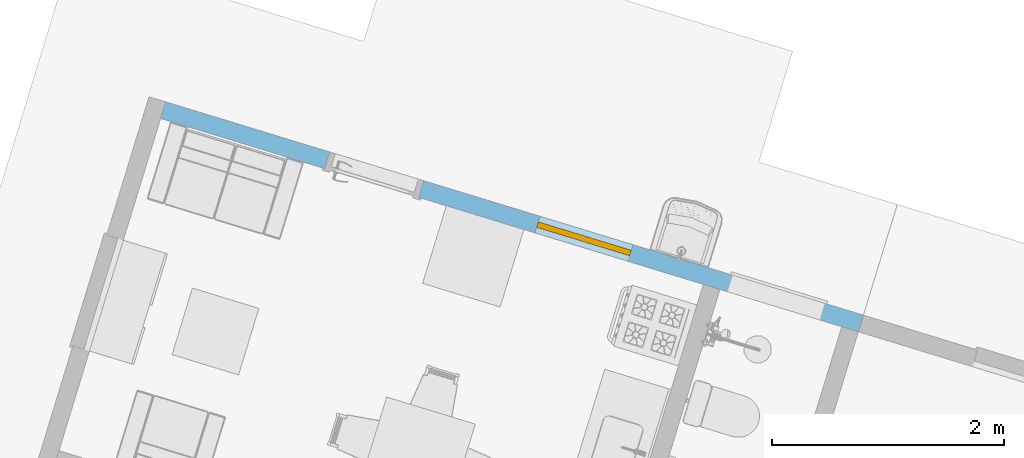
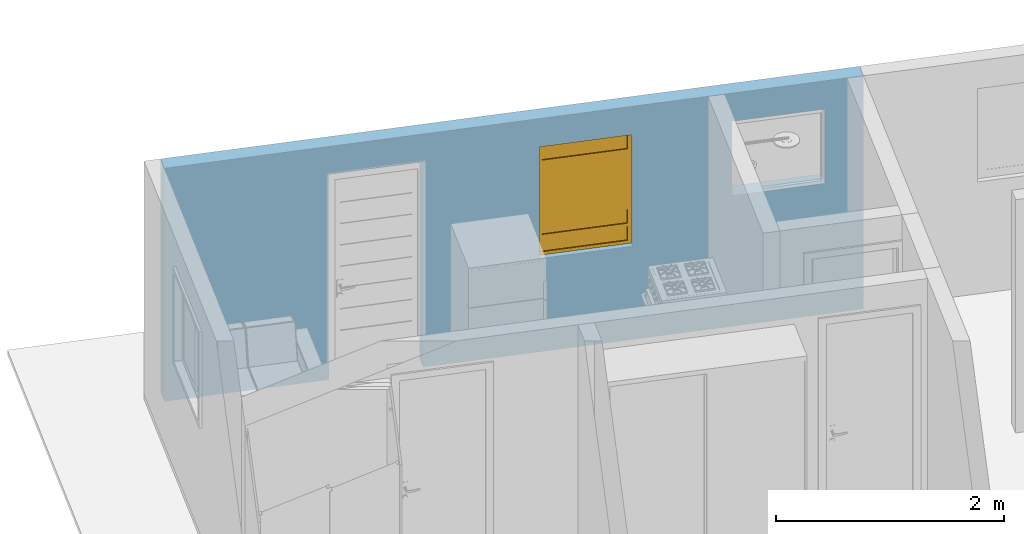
# One storey, part 6 of 13: 1 window, 3 openings, plus 1 element that does not belong to this part.
"""IFC2X3 building model written with IfcOpenShell, lengths in millimetres."""

import ifcopenshell
import ifcopenshell.guid

model = None  # the IFC model being written
_history = None  # IfcOwnerHistory: only IFC2X3 demands one
_inside = {}  # id of a spatial element -> (the spatial element, [elements in it])
_under = {}  # id of a project, library or spatial element -> (it, [spatial elements below it])
_declared = {}  # id of a project -> (the project, [libraries it declares])
_typed = {}  # id of a type object -> (the type object, [elements of that type])
_made_of = {}  # id of a material, layer set ... -> (it, [elements and type objects made of it])


def new_model(schema):
    """Start an empty IFC model of exactly this schema.

    Asked for "IFC4X3", IfcOpenShell would pick the latest addendum, in which some entities
    have other attributes; the version numbers below select the first issue.
    IFC2X3 requires an IfcOwnerHistory on every rooted entity: one is made here for all.
    """
    global model, _history
    if schema == "IFC4X3":
        model = ifcopenshell.file(schema_version=(4, 3, 0, 0))
    else:
        model = ifcopenshell.file(schema=schema)
    _inside.clear()
    _under.clear()
    _declared.clear()
    _typed.clear()
    _made_of.clear()
    _history = None
    if model.schema == "IFC2X3":
        org = make("IfcOrganization", Name="unknown")
        user = make(
            "IfcPersonAndOrganization",
            ThePerson=make("IfcPerson", FamilyName="unknown"),
            TheOrganization=org,
        )
        app = make(
            "IfcApplication",
            ApplicationDeveloper=org,
            Version="unknown",
            ApplicationFullName="unknown",
            ApplicationIdentifier="unknown",
        )
        _history = make(
            "IfcOwnerHistory",
            OwningUser=user,
            OwningApplication=app,
            ChangeAction="ADDED",
            CreationDate=0,
        )
    return model


def make(cls, **values):
    """One entity of the class cls with the attributes given. An attribute that is None is left unset."""
    return model.create_entity(
        cls, **{name: value for name, value in values.items() if value is not None}
    )


def entity(cls, *values):
    """Any entity or typed value of the class cls, its attributes in the order of the schema. None: left unset."""
    e = model.create_entity(cls)
    for i, value in enumerate(values):
        if value is not None:
            e[i] = value
    return e


def rooted(cls, **values):
    """An entity with a GlobalId (a new one), such as an element, a storey or a relation."""
    return make(cls, GlobalId=ifcopenshell.guid.new(), OwnerHistory=_history, **values)


def si_unit(unit_type, name, prefix=None):
    """IfcSIUnit, for example si_unit("LENGTHUNIT", "METRE", prefix="MILLI")."""
    return make("IfcSIUnit", UnitType=unit_type, Prefix=prefix, Name=name)


def converted_unit(unit_type, name, factor, base, dimensions=None, offset=None):
    """IfcConversionBasedUnit, such as the inch: factor (a typed value) times the base unit."""
    return make(
        "IfcConversionBasedUnit"
        if offset is None
        else "IfcConversionBasedUnitWithOffset",
        ConversionOffset=offset,
        Dimensions=None
        if dimensions is None
        else entity("IfcDimensionalExponents", *dimensions),
        UnitType=unit_type,
        Name=name,
        ConversionFactor=make(
            "IfcMeasureWithUnit", ValueComponent=factor, UnitComponent=base
        ),
    )


def derived_unit(unit_type, elements):
    """IfcDerivedUnit: a product of units, each with its exponent."""
    return make(
        "IfcDerivedUnit",
        Elements=[
            make("IfcDerivedUnitElement", Unit=unit, Exponent=power)
            for unit, power in elements
        ],
        UnitType=unit_type,
    )


def money_unit(currency):
    """IfcMonetaryUnit."""
    return make("IfcMonetaryUnit", Currency=currency)


def assignment(units):
    """IfcUnitAssignment: the units of a project."""
    return None if units is None else make("IfcUnitAssignment", Units=units)


def point(xyz):
    """IfcCartesianPoint."""
    return None if xyz is None else make("IfcCartesianPoint", Coordinates=xyz)


def direction(xyz):
    """IfcDirection."""
    return None if xyz is None else make("IfcDirection", DirectionRatios=xyz)


def frame(location, z_axis=None, x_axis=None):
    """IfcAxis2Placement3D, a coordinate frame: its origin and axes. An axis left out is left unset."""
    return make(
        "IfcAxis2Placement3D",
        Location=point(location),
        Axis=direction(z_axis),
        RefDirection=direction(x_axis),
    )


def origin_with_axes():
    """The frame at (0, 0, 0) with the z axis (0, 0, 1) and the x axis (1, 0, 0) written out."""
    return frame((0.0, 0.0, 0.0), z_axis=(0.0, 0.0, 1.0), x_axis=(1.0, 0.0, 0.0))


def place(relative_to, where):
    """IfcLocalPlacement: puts the frame where relative to a parent placement (None: the world)."""
    return make(
        "IfcLocalPlacement", PlacementRelTo=relative_to, RelativePlacement=where
    )


def context(
    kind, dimensions, precision=None, world=None, true_north=None, identifier=None
):
    """IfcGeometricRepresentationContext, for example the 3D "Model" context."""
    return make(
        "IfcGeometricRepresentationContext",
        ContextIdentifier=identifier,
        ContextType=kind,
        CoordinateSpaceDimension=dimensions,
        Precision=precision,
        WorldCoordinateSystem=world,
        TrueNorth=true_north,
    )


def subcontext(parent, identifier, kind, view, scale=None):
    """IfcGeometricRepresentationSubContext, for example "Body" below "Model"."""
    return make(
        "IfcGeometricRepresentationSubContext",
        ContextIdentifier=identifier,
        ContextType=kind,
        ParentContext=parent,
        TargetScale=scale,
        TargetView=view,
    )


def project(units=None, contexts=None):
    """IfcProject with its units and contexts."""
    return rooted(
        "IfcProject",
        Name="project",
        RepresentationContexts=contexts,
        UnitsInContext=assignment(units),
    )


def spatial(cls, under=None, at=None, **own):
    """A site, building, storey or space (cls), placed at a placement, below another one or the project."""
    s = rooted(cls, ObjectPlacement=at, **own)
    if under is not None:
        _under.setdefault(under.id(), (under, []))[1].append(s)
    return s


def faces_of(points, faces, orient=None, outer=None):
    """IfcFace entities. A face is a list of loops; a loop is a list of indices into points, from 0.

    orient and outer hold one flag for each loop. By default every Orientation is true, the
    first loop of a face is its IfcFaceOuterBound and the others are IfcFaceBound.
    """
    made = []
    for i, loops in enumerate(faces):
        bounds = []
        for j, loop in enumerate(loops):
            is_outer = j == 0 if outer is None else outer[i][j]
            bounds.append(
                make(
                    "IfcFaceOuterBound" if is_outer else "IfcFaceBound",
                    Bound=make("IfcPolyLoop", Polygon=[points[k] for k in loop]),
                    Orientation=True if orient is None else orient[i][j],
                )
            )
        made.append(make("IfcFace", Bounds=bounds))
    return made


def open_shell(faces, orient=None, outer=None):
    """The faces of one IfcOpenShell. surface_model builds it on its shared points."""
    return ("IfcOpenShell", faces, orient, outer)


def faceted_brep(points, faces, orient=None, outer=None, voids=None):
    """IfcFacetedBrep: a solid bounded by flat faces; with voids (closed shells), ...WithVoids."""
    shared = [point(p) for p in points]
    hull = make("IfcClosedShell", CfsFaces=faces_of(shared, faces, orient, outer))
    if voids is None:
        return make("IfcFacetedBrep", Outer=hull)
    return make(
        "IfcFacetedBrepWithVoids",
        Outer=hull,
        Voids=[
            make(cls, CfsFaces=faces_of(shared, fs, o, b)) for cls, fs, o, b in voids
        ],
    )


def surface_model(cls, points, shells):
    """IfcFaceBasedSurfaceModel or IfcShellBasedSurfaceModel (cls): surfaces that need not close."""
    shared = [point(p) for p in points]
    made = [make(c, CfsFaces=faces_of(shared, fs, o, b)) for c, fs, o, b in shells]
    if cls == "IfcFaceBasedSurfaceModel":
        return make(cls, FbsmFaces=made)
    return make(cls, SbsmBoundary=made)


def shape(context_of_items, identifier, shape_type, items):
    """IfcShapeRepresentation: the items that make up one representation, for example the "Body"."""
    return make(
        "IfcShapeRepresentation",
        ContextOfItems=context_of_items,
        RepresentationIdentifier=identifier,
        RepresentationType=shape_type,
        Items=items,
    )


def material(Name=None, Category=None):
    """IfcMaterial."""
    return make("IfcMaterial", Name=Name, Category=Category)


def made_of(thing, what):
    """Note that an element or type object is made of a material, layer set ...; save() writes the relation."""
    if what is not None:
        _made_of.setdefault(what.id(), (what, []))[1].append(thing)
    return thing


def type_object(cls, material=None, **own):
    """A type object (cls), such as IfcWallType, which elements share."""
    return made_of(rooted(cls, **own), material)


def element(
    cls,
    number,
    at=None,
    inside=None,
    cuts=None,
    type_object=None,
    material=None,
    context=None,
    identifier="Body",
    shape_type=None,
    held_by="IfcProductDefinitionShape",
    body=None,
    shapes=None,
    **own,
):
    """One element of the class cls, such as IfcWall. Its Tag is "e" and its number.

    at: its placement. inside: the storey or other place that contains it. cuts: it is an
    opening in that element (IfcRelVoidsElement). A single representation is given by context,
    identifier, shape_type and body (its items); several are given by shapes. held_by: the class
    of the entity that holds the representations. save() writes the other relations.
    """
    e = rooted(cls, Tag="e%d" % number, ObjectPlacement=at, **own)
    if body is not None:
        shapes = [shape(context, identifier, shape_type, body)]
    if shapes is not None:
        e.Representation = make(held_by, Representations=shapes)
    if inside is not None:
        _inside.setdefault(inside.id(), (inside, []))[1].append(e)
    if cuts is not None:
        rooted(
            "IfcRelVoidsElement", RelatingBuildingElement=cuts, RelatedOpeningElement=e
        )
    if type_object is not None:
        _typed.setdefault(type_object.id(), (type_object, []))[1].append(e)
    return made_of(e, material)


def fill(opening, filler):
    """IfcRelFillsElement: the door or window that sits in an opening."""
    return rooted(
        "IfcRelFillsElement",
        RelatingOpeningElement=opening,
        RelatedBuildingElement=filler,
    )


def aggregate(whole, parts):
    """IfcRelAggregates: a whole, such as a stair, and the parts it consists of."""
    return rooted("IfcRelAggregates", RelatingObject=whole, RelatedObjects=parts)


def save(model, path):
    """Write the relations noted so far, then the file.

    IfcRelAggregates (storeys below a building ...), IfcRelContainedInSpatialStructure (elements
    in a storey), IfcRelDefinesByType, IfcRelAssociatesMaterial and IfcRelDeclares: one each for
    every whole, place, type object, material and project.
    """
    for whole, parts in _under.values():
        aggregate(whole, parts)
    for where, things in _inside.values():
        rooted(
            "IfcRelContainedInSpatialStructure",
            RelatedElements=things,
            RelatingStructure=where,
        )
    for kind, things in _typed.values():
        rooted("IfcRelDefinesByType", RelatedObjects=things, RelatingType=kind)
    for what, things in _made_of.values():
        rooted("IfcRelAssociatesMaterial", RelatedObjects=things, RelatingMaterial=what)
    for by, libraries in _declared.values():
        rooted("IfcRelDeclares", RelatingContext=by, RelatedDefinitions=libraries)
    model.write(path)


model = new_model("IFC2X3")

# Units and contexts
model_context = context("Model", 3, precision=0.01, world=origin_with_axes(), true_north=direction((0.0, 1.0)))
body_context = subcontext(model_context, "Body", "Model", "MODEL_VIEW")
ifc_project = project(units=[si_unit("LENGTHUNIT", "METRE", prefix="MILLI"), si_unit("AREAUNIT", "SQUARE_METRE"), si_unit("VOLUMEUNIT", "CUBIC_METRE"), converted_unit("PLANEANGLEUNIT", "DEGREE", entity("IfcPlaneAngleMeasure", 0.0174532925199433), si_unit("PLANEANGLEUNIT", "RADIAN"), dimensions=[0, 0, 0, 0, 0, 0, 0]), money_unit("USD"), converted_unit("TIMEUNIT", "Year", entity("IfcTimeMeasure", 31557600.0), si_unit("TIMEUNIT", "SECOND"), dimensions=[0, 0, 1, 0, 0, 0, 0]), si_unit("MASSUNIT", "GRAM", prefix="KILO"), si_unit("THERMODYNAMICTEMPERATUREUNIT", "DEGREE_CELSIUS"), si_unit("LUMINOUSINTENSITYUNIT", "LUMEN"), si_unit("ENERGYUNIT", "JOULE", prefix="MEGA"), derived_unit("THERMALCONDUCTANCEUNIT", [(si_unit("POWERUNIT", "WATT"), 1), (si_unit("LENGTHUNIT", "METRE"), -1), (si_unit("THERMODYNAMICTEMPERATUREUNIT", "KELVIN"), -1)]), derived_unit("SPECIFICHEATCAPACITYUNIT", [(si_unit("ENERGYUNIT", "JOULE"), 1), (si_unit("MASSUNIT", "GRAM", prefix="KILO"), -1), (si_unit("THERMODYNAMICTEMPERATUREUNIT", "KELVIN"), -1)]), derived_unit("MASSDENSITYUNIT", [(si_unit("MASSUNIT", "GRAM", prefix="KILO"), 1), (si_unit("VOLUMEUNIT", "CUBIC_METRE"), -1)])], contexts=[model_context])

# Site, building, storey
site_placement = place(None, frame((0.0, 0.0, 0.0), z_axis=(0.0, 0.0, 1.0), x_axis=(0.9563047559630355, -0.2923717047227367, 0.0)))
site = spatial("IfcSite", under=ifc_project, at=site_placement, Name="Site", CompositionType="ELEMENT")
building_placement = place(site_placement, origin_with_axes())
building = spatial("IfcBuilding", under=site, at=building_placement, Name="Casa Térrea Isolada", CompositionType="ELEMENT")
storey_placement = place(building_placement, origin_with_axes())
storey = spatial("IfcBuildingStorey", under=building, at=storey_placement, Name="Terreo", CompositionType="ELEMENT", Elevation=0.0)

# Wall, openings, window
ifc_material = material(Name="Bloco de Concreto - Estrutural")
wall_type = type_object("IfcWallType", Name="Bloco de Concreto - Estrutural 150", PredefinedType="NOTDEFINED")
wall_placement = place(storey_placement, frame((6374.999977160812, 6375.002939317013, 0.0), z_axis=(0.0, 0.0, 1.0), x_axis=(-0.9999999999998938, -4.610697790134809e-07, 0.0)))
wall = element("IfcWall", 1, at=wall_placement, inside=storey, type_object=wall_type, material=ifc_material, Name="Parede 01", context=body_context, shape_type="Brep", body=[
    faceted_brep([(4743.601821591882, -75.00000000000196, 2200.0), (4743.601821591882, -75.00000000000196, 0.0), (6224.999942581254, -75.00000000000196, 0.0), (6224.999942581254, -75.00000000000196, 2500.0), (-74.99999999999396, -75.00000000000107, 2500.0), (-74.99999999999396, -75.00000000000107, 0.0), (3893.601821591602, -75.00000000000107, 0.0), (3893.601821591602, -75.00000000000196, 2200.0), (1109.997095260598, -75.00000000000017, 2200.0), (1109.997095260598, -75.00000000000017, 1400.0), (269.9970952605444, -75.00000000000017, 1400.0), (269.9970952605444, -75.00000000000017, 2200.0), (2004.997164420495, -75.00000000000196, 1000.0), (2004.997164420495, -75.00000000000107, 2200.0), (2844.997164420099, -75.00000000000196, 2200.0), (2844.997164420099, -75.00000000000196, 1000.0), (4743.601821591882, 74.99999999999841, 2200.0), (4743.601821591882, 74.99999999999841, 0.0), (6224.999942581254, 74.99999999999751, 0.0), (6224.999942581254, 74.99999999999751, 2500.0), (-74.99999999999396, 74.99999999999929, 2500.0), (-74.99999999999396, 74.99999999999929, 0.0), (3893.601821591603, 74.99999999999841, 0.0), (3893.601821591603, 74.99999999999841, 2200.0), (1109.997095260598, 74.99999999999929, 1400.0), (1109.997095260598, 74.99999999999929, 2200.0), (269.9970952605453, 74.99999999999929, 1400.0), (269.9970952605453, 74.99999999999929, 2200.0), (2004.997164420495, 24.99999999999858, 1000.0), (2004.997164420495, 24.99999999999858, 2200.0), (2844.997164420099, 24.99999999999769, 2200.0), (2844.997164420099, 24.99999999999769, 1000.0), (2004.997164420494, 74.99999999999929, 2200.0), (2004.997164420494, 74.99999999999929, 1000.0), (2844.9971644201, 74.99999999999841, 1000.0), (2844.9971644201, 74.99999999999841, 2200.0)], [[[0, 1, 2, 3, 4, 5, 6, 7], [8, 9, 10, 11], [12, 13, 14, 15]], [[1, 0, 16, 17]], [[1, 17, 18, 2]], [[19, 3, 2, 18]], [[3, 19, 20, 4]], [[5, 4, 20, 21]], [[22, 6, 5, 21]], [[7, 6, 22, 23]], [[0, 7, 23, 16]], [[24, 9, 8, 25]], [[26, 10, 9, 24]], [[27, 11, 10, 26]], [[25, 8, 11, 27]], [[12, 28, 29, 13]], [[13, 29, 30, 14]], [[14, 30, 31, 15]], [[15, 31, 28, 12]], [[23, 22, 21, 20, 19, 18, 17, 16], [26, 24, 25, 27], [32, 33, 34, 35]], [[28, 33, 32, 29]], [[29, 32, 35, 30]], [[30, 35, 34, 31]], [[31, 34, 33, 28]]]),
])
opening_1_placement = place(wall_placement, frame((2424.997164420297, 0.0, 1000.0), z_axis=(0.0, 0.0, 1.0), x_axis=(1.0, 0.0, 0.0)))
opening_1 = element("IfcOpeningElement", 2, at=opening_1_placement, cuts=wall, Name="J02", context=body_context, shape_type="Brep", body=[
    faceted_brep([(-419.9999999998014, 24.99999999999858, 0.0), (-419.9999999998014, 24.99999999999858, 1200.0), (-419.9999999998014, 76.00290473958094, 1200.0), (-419.9999999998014, 76.00290473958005, 0.0), (-419.9999999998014, -76.00290473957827, 0.0), (-419.9999999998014, -76.00290473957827, 1200.0), (419.9999999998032, 24.99999999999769, 1200.0), (419.9999999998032, 76.00290473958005, 1200.0), (419.9999999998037, -76.00290473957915, 1200.0), (419.9999999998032, 76.00290473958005, 0.0), (419.9999999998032, 24.99999999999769, 0.0), (419.9999999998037, -76.00290473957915, 0.0)], [[[0, 1, 2, 3]], [[1, 0, 4, 5]], [[6, 7, 2, 1, 5, 8]], [[7, 9, 3, 2]], [[0, 3, 9, 10, 11, 4]], [[5, 4, 11, 8]], [[6, 10, 9, 7]], [[10, 6, 8, 11]]]),
])
opening_2_placement = place(wall_placement, frame((4318.601821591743, 0.0, 0.0), z_axis=(0.0, 0.0, 1.0), x_axis=(1.0, 0.0, 0.0)))
element("IfcOpeningElement", 3, at=opening_2_placement, cuts=wall, Name="Porta 01", context=body_context, shape_type="Brep", body=[
    faceted_brep([(425.0000000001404, 74.99999999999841, 2200.0), (-425.0000000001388, 74.99999999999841, 2200.0), (-425.0000000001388, -76.00290473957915, 2200.0), (425.0000000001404, -76.00290473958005, 2200.0), (-425.0000000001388, 74.99999999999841, 0.0), (425.0000000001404, 74.99999999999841, 0.0), (445.0000000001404, 74.99999999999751, 0.0), (445.0000000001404, 74.99999999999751, 2220.0), (-445.0000000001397, 74.99999999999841, 2220.0), (-445.0000000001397, 74.99999999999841, 0.0), (-425.0000000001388, -76.00290473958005, 0.0), (425.0000000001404, -76.00290473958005, 0.0), (425.0000000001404, 76.00290473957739, 0.0), (445.0000000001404, 76.00290473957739, 0.0), (445.0000000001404, 76.00290473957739, 2220.0), (-445.0000000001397, 76.00290473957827, 2220.0), (-445.0000000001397, 76.00290473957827, 0.0), (-425.0000000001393, 76.00290473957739, 0.0), (425.0000000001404, 76.00290473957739, 2200.0), (-425.0000000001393, 76.00290473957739, 2200.0)], [[[0, 1, 2, 3]], [[4, 1, 0, 5, 6, 7, 8, 9]], [[1, 4, 10, 2]], [[2, 10, 11, 3]], [[5, 0, 3, 11]], [[5, 12, 13, 6]], [[7, 6, 13, 14]], [[8, 7, 14, 15]], [[9, 8, 15, 16]], [[17, 4, 9, 16]], [[12, 5, 11, 10, 4, 17]], [[18, 19, 17, 16, 15, 14, 13, 12]], [[18, 12, 17, 19]]]),
])
opening_3_placement = place(wall_placement, frame((689.9970952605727, 0.0, 1400.0), z_axis=(0.0, 0.0, 1.0), x_axis=(1.0, 0.0, 0.0)))
element("IfcOpeningElement", 4, at=opening_3_placement, cuts=wall, Name="J03", context=body_context, shape_type="Brep", body=[
    faceted_brep([(-420.0000000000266, -75.00000000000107, 0.0), (-420.0000000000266, -75.00000000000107, 800.0000000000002), (-420.0000000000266, 76.00290473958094, 800.0000000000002), (-420.0000000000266, 76.00290473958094, 0.0), (435.0000000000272, -75.00000000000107, 815.0), (435.0000000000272, -75.00000000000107, -14.9999999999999), (-435.0000000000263, -75.00000000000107, -14.9999999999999), (-435.0000000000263, -75.00000000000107, 815.0), (420.0000000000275, -75.00000000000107, 800.0000000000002), (420.0000000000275, -75.00000000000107, 0.0), (420.0000000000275, 76.00290473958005, 800.0000000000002), (420.0000000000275, 76.00290473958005, 0.0), (435.0000000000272, -76.00290473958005, 815.0), (435.0000000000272, -76.00290473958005, -14.9999999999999), (-435.0000000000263, -76.00290473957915, -14.9999999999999), (-435.0000000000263, -76.00290473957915, 815.0)], [[[0, 1, 2, 3]], [[4, 5, 6, 7], [8, 1, 0, 9]], [[1, 8, 10, 2]], [[11, 3, 2, 10]], [[9, 0, 3, 11]], [[5, 4, 12, 13]], [[6, 5, 13, 14]], [[7, 6, 14, 15]], [[4, 7, 15, 12]], [[8, 9, 11, 10]], [[14, 13, 12, 15]]]),
])
window_style = type_object("IfcWindowStyle", Name="Vertical Multi-Sash Window 27", ConstructionType="NOTDEFINED", OperationType="USERDEFINED", ParameterTakesPrecedence=False, Sizeable=False)
window_placement = place(opening_1_placement, frame((-419.9999999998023, 0.0, 0.0), z_axis=(0.0, 0.0, 1.0), x_axis=(1.0, 0.0, 0.0)))
window = element("IfcWindow", 5, at=window_placement, inside=storey, type_object=window_style, Name="J02", OverallHeight=1200.0, OverallWidth=840.0, context=body_context, shape_type="SurfaceModel", body=[
    faceted_brep([(804.9999999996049, -25.00000000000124, 1165.0), (839.9999999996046, -25.00000000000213, 1165.0), (839.9999999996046, 24.99999999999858, 1165.0), (804.9999999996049, 24.99999999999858, 1165.0), (804.9999999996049, -25.00000000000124, 1015.833333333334), (804.9999999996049, -25.00000000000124, 980.8333333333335), (804.9999999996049, -25.00000000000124, 811.6666666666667), (804.9999999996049, -25.00000000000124, 776.6666666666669), (804.9999999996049, -25.00000000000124, 607.4999999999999), (804.9999999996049, -25.00000000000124, 572.5000000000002), (804.9999999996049, -25.00000000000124, 403.3333333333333), (804.9999999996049, -25.00000000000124, 368.3333333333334), (804.9999999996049, -25.00000000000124, 219.1666666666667), (804.9999999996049, -25.00000000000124, 184.1666666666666), (804.9999999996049, -25.00000000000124, 34.99999999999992), (839.9999999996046, -25.00000000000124, 34.99999999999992), (839.9999999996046, 24.99999999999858, 34.99999999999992), (804.9999999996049, 24.99999999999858, 34.99999999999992), (804.9999999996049, 24.99999999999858, 184.1666666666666), (804.9999999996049, 24.99999999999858, 219.1666666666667), (804.9999999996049, 24.99999999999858, 368.3333333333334), (804.9999999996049, 24.99999999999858, 403.3333333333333), (804.9999999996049, 24.99999999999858, 572.5000000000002), (804.9999999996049, 24.99999999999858, 607.4999999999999), (804.9999999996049, 24.99999999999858, 776.6666666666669), (804.9999999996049, 24.99999999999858, 811.6666666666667), (804.9999999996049, 24.99999999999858, 980.8333333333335), (804.9999999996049, 24.99999999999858, 1015.833333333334)], [[[0, 1, 2, 3]], [[0, 4, 5, 6, 7, 8, 9, 10, 11, 12, 13, 14, 15, 1]], [[1, 15, 16, 2]], [[3, 2, 16, 17, 18, 19, 20, 21, 22, 23, 24, 25, 26, 27]], [[4, 0, 3, 27]], [[5, 4, 27, 26]], [[6, 5, 26, 25]], [[7, 6, 25, 24]], [[8, 7, 24, 23]], [[9, 8, 23, 22]], [[10, 9, 22, 21]], [[11, 10, 21, 20]], [[12, 11, 20, 19]], [[13, 12, 19, 18]], [[14, 13, 18, 17]], [[15, 14, 17, 16]]]),
    faceted_brep([(34.99999999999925, -25.00000000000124, 1015.833333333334), (34.99999999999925, -25.00000000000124, 980.8333333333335), (35.00000000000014, 24.99999999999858, 980.8333333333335), (35.00000000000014, 24.99999999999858, 1015.833333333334), (34.99999999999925, -25.00000000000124, 1165.0), (0.0, -25.00000000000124, 1165.0), (0.0, -25.00000000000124, 34.99999999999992), (34.99999999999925, -25.00000000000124, 34.99999999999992), (34.99999999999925, -25.00000000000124, 184.1666666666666), (34.99999999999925, -25.00000000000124, 219.1666666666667), (34.99999999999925, -25.00000000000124, 368.3333333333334), (34.99999999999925, -25.00000000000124, 403.3333333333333), (34.99999999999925, -25.00000000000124, 572.5000000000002), (34.99999999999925, -25.00000000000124, 607.4999999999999), (34.99999999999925, -25.00000000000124, 776.6666666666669), (34.99999999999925, -25.00000000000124, 811.6666666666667), (35.00000000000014, 24.99999999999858, 811.6666666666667), (35.00000000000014, 24.99999999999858, 776.6666666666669), (35.00000000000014, 24.99999999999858, 607.4999999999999), (35.00000000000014, 24.99999999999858, 572.5000000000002), (35.00000000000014, 24.99999999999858, 403.3333333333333), (35.00000000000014, 24.99999999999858, 368.3333333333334), (35.00000000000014, 24.99999999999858, 219.1666666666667), (35.00000000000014, 24.99999999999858, 184.1666666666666), (35.00000000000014, 24.99999999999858, 34.99999999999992), (0.0, 24.99999999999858, 34.99999999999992), (0.0, 24.99999999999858, 1165.0), (35.00000000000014, 24.99999999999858, 1165.0)], [[[0, 1, 2, 3]], [[0, 4, 5, 6, 7, 8, 9, 10, 11, 12, 13, 14, 15, 1]], [[1, 15, 16, 2]], [[3, 2, 16, 17, 18, 19, 20, 21, 22, 23, 24, 25, 26, 27]], [[4, 0, 3, 27]], [[5, 4, 27, 26]], [[6, 5, 26, 25]], [[7, 6, 25, 24]], [[8, 7, 24, 23]], [[9, 8, 23, 22]], [[10, 9, 22, 21]], [[11, 10, 21, 20]], [[12, 11, 20, 19]], [[13, 12, 19, 18]], [[14, 13, 18, 17]], [[15, 14, 17, 16]]]),
    faceted_brep([(34.99999999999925, -25.00000000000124, 1165.0), (0.0, -25.00000000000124, 1165.0), (0.0, 24.99999999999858, 1165.0), (35.00000000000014, 24.99999999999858, 1165.0), (804.9999999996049, -25.00000000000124, 1165.0), (839.9999999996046, -25.00000000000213, 1165.0), (839.9999999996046, -25.00000000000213, 1200.0), (0.0, -25.00000000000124, 1200.0), (0.0, 24.99999999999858, 1200.0), (839.9999999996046, 24.99999999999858, 1200.0), (839.9999999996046, 24.99999999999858, 1165.0), (804.9999999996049, 24.99999999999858, 1165.0)], [[[0, 1, 2, 3]], [[0, 4, 5, 6, 7, 1]], [[1, 7, 8, 2]], [[3, 2, 8, 9, 10, 11]], [[4, 0, 3, 11]], [[5, 4, 11, 10]], [[6, 5, 10, 9]], [[7, 6, 9, 8]]]),
    faceted_brep([(804.9999999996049, -25.00000000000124, 34.99999999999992), (839.9999999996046, -25.00000000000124, 34.99999999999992), (839.9999999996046, 24.99999999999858, 34.99999999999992), (804.9999999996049, 24.99999999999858, 34.99999999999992), (34.99999999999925, -25.00000000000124, 34.99999999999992), (0.0, -25.00000000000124, 34.99999999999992), (0.0, -25.00000000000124, 0.0), (839.9999999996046, -25.00000000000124, 0.0), (839.9999999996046, 24.99999999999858, 0.0), (0.0, 24.99999999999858, 0.0), (0.0, 24.99999999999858, 34.99999999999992), (35.00000000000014, 24.99999999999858, 34.99999999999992)], [[[0, 1, 2, 3]], [[0, 4, 5, 6, 7, 1]], [[1, 7, 8, 2]], [[3, 2, 8, 9, 10, 11]], [[4, 0, 3, 11]], [[5, 4, 11, 10]], [[6, 5, 10, 9]], [[7, 6, 9, 8]]]),
    faceted_brep([(34.99999999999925, -25.00000000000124, 219.1666666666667), (804.9999999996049, -25.00000000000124, 219.1666666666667), (804.9999999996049, 24.99999999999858, 219.1666666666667), (35.00000000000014, 24.99999999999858, 219.1666666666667), (34.99999999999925, -25.00000000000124, 184.1666666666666), (804.9999999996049, -25.00000000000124, 184.1666666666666), (804.9999999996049, 24.99999999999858, 184.1666666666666), (35.00000000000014, 24.99999999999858, 184.1666666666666)], [[[0, 1, 2, 3]], [[0, 4, 5, 1]], [[1, 5, 6, 2]], [[3, 2, 6, 7]], [[4, 0, 3, 7]], [[5, 4, 7, 6]]]),
    faceted_brep([(34.99999999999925, -25.00000000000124, 403.3333333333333), (804.9999999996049, -25.00000000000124, 403.3333333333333), (804.9999999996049, 24.99999999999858, 403.3333333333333), (35.00000000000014, 24.99999999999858, 403.3333333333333), (34.99999999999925, -25.00000000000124, 368.3333333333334), (804.9999999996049, -25.00000000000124, 368.3333333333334), (804.9999999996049, 24.99999999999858, 368.3333333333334), (35.00000000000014, 24.99999999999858, 368.3333333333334)], [[[0, 1, 2, 3]], [[0, 4, 5, 1]], [[1, 5, 6, 2]], [[3, 2, 6, 7]], [[4, 0, 3, 7]], [[5, 4, 7, 6]]]),
    faceted_brep([(34.99999999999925, -25.00000000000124, 607.4999999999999), (804.9999999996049, -25.00000000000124, 607.4999999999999), (804.9999999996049, 24.99999999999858, 607.4999999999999), (35.00000000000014, 24.99999999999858, 607.4999999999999), (34.99999999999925, -25.00000000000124, 572.5000000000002), (804.9999999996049, -25.00000000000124, 572.5000000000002), (804.9999999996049, 24.99999999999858, 572.5000000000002), (35.00000000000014, 24.99999999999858, 572.5000000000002)], [[[0, 1, 2, 3]], [[0, 4, 5, 1]], [[1, 5, 6, 2]], [[3, 2, 6, 7]], [[4, 0, 3, 7]], [[5, 4, 7, 6]]]),
    faceted_brep([(34.99999999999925, -25.00000000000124, 811.6666666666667), (804.9999999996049, -25.00000000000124, 811.6666666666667), (804.9999999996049, 24.99999999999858, 811.6666666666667), (35.00000000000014, 24.99999999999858, 811.6666666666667), (34.99999999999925, -25.00000000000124, 776.6666666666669), (804.9999999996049, -25.00000000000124, 776.6666666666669), (804.9999999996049, 24.99999999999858, 776.6666666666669), (35.00000000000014, 24.99999999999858, 776.6666666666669)], [[[0, 1, 2, 3]], [[0, 4, 5, 1]], [[1, 5, 6, 2]], [[3, 2, 6, 7]], [[4, 0, 3, 7]], [[5, 4, 7, 6]]]),
    faceted_brep([(34.99999999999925, -25.00000000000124, 1015.833333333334), (804.9999999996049, -25.00000000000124, 1015.833333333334), (804.9999999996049, 24.99999999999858, 1015.833333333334), (35.00000000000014, 24.99999999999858, 1015.833333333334), (34.99999999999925, -25.00000000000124, 980.8333333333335), (804.9999999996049, -25.00000000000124, 980.8333333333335), (804.9999999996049, 24.99999999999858, 980.8333333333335), (35.00000000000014, 24.99999999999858, 980.8333333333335)], [[[0, 1, 2, 3]], [[0, 4, 5, 1]], [[1, 5, 6, 2]], [[3, 2, 6, 7]], [[4, 0, 3, 7]], [[5, 4, 7, 6]]]),
    surface_model("IfcShellBasedSurfaceModel", [(804.9999999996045, -5.00000000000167, 34.99999999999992), (804.9999999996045, -5.00000000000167, 184.1666666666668), (35.00000000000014, -5.00000000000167, 184.1666666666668), (35.00000000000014, -5.00000000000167, 34.99999999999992)], [open_shell([[[0, 1, 2, 3]]])]),
    surface_model("IfcShellBasedSurfaceModel", [(804.9999999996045, 14.9999999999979, 34.99999999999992), (34.99999999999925, 14.99999999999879, 34.99999999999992), (34.99999999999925, 14.99999999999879, 184.1666666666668), (804.9999999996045, 14.9999999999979, 184.1666666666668)], [open_shell([[[0, 1, 2, 3]]])]),
    surface_model("IfcShellBasedSurfaceModel", [(804.9999999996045, -5.00000000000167, 219.1666666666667), (804.9999999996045, -5.00000000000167, 368.3333333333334), (35.00000000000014, -5.00000000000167, 368.3333333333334), (35.00000000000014, -5.00000000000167, 219.1666666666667)], [open_shell([[[0, 1, 2, 3]]])]),
    surface_model("IfcShellBasedSurfaceModel", [(804.9999999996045, 14.9999999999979, 219.1666666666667), (34.99999999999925, 14.99999999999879, 219.1666666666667), (34.99999999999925, 14.99999999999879, 368.3333333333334), (804.9999999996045, 14.9999999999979, 368.3333333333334)], [open_shell([[[0, 1, 2, 3]]])]),
    faceted_brep([(794.9999999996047, 24.99999999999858, 562.5000000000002), (794.9999999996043, 4.999999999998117, 562.5000000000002), (804.9999999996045, 4.999999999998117, 562.5000000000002), (804.9999999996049, 24.99999999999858, 562.5000000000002), (794.9999999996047, 24.99999999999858, 413.3333333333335), (794.9999999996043, 4.999999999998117, 413.3333333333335), (804.9999999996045, 4.999999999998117, 413.3333333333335), (804.9999999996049, 24.99999999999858, 413.3333333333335)], [[[0, 1, 2, 3]], [[4, 5, 1, 0]], [[1, 5, 6, 2]], [[3, 2, 6, 7]], [[0, 3, 7, 4]], [[7, 6, 5, 4]]]),
    faceted_brep([(44.99999999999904, 24.99999999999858, 413.3333333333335), (44.99999999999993, 4.999999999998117, 413.3333333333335), (35.00000000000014, 4.999999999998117, 413.3333333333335), (35.00000000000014, 24.99999999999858, 413.3333333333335), (44.99999999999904, 24.99999999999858, 562.5000000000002), (44.99999999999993, 4.999999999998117, 562.5000000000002), (35.00000000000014, 4.999999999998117, 562.5000000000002), (35.00000000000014, 24.99999999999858, 562.5000000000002)], [[[0, 1, 2, 3]], [[4, 5, 1, 0]], [[1, 5, 6, 2]], [[3, 2, 6, 7]], [[0, 3, 7, 4]], [[7, 6, 5, 4]]]),
    faceted_brep([(35.00000000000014, 24.99999999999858, 403.3333333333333), (35.00000000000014, 4.999999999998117, 403.3333333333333), (35.00000000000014, 4.999999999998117, 413.3333333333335), (35.00000000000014, 24.99999999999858, 413.3333333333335), (804.9999999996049, 24.99999999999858, 403.3333333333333), (804.9999999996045, 4.999999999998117, 403.3333333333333), (804.9999999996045, 4.999999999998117, 413.3333333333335), (794.9999999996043, 4.999999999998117, 413.3333333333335), (44.99999999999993, 4.999999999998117, 413.3333333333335), (44.99999999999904, 24.99999999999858, 413.3333333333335), (794.9999999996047, 24.99999999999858, 413.3333333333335), (804.9999999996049, 24.99999999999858, 413.3333333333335)], [[[0, 1, 2, 3]], [[4, 5, 1, 0]], [[1, 5, 6, 7, 8, 2]], [[3, 2, 8, 9]], [[0, 3, 9, 10, 11, 4]], [[11, 6, 5, 4]], [[10, 7, 6, 11]], [[9, 8, 7, 10]]]),
    faceted_brep([(804.9999999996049, 24.99999999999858, 572.5000000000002), (804.9999999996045, 4.999999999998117, 572.5000000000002), (804.9999999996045, 4.999999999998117, 562.5000000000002), (804.9999999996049, 24.99999999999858, 562.5000000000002), (35.00000000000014, 24.99999999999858, 572.5000000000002), (35.00000000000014, 4.999999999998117, 572.5000000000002), (35.00000000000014, 4.999999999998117, 562.5000000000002), (44.99999999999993, 4.999999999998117, 562.5000000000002), (794.9999999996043, 4.999999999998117, 562.5000000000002), (794.9999999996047, 24.99999999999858, 562.5000000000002), (44.99999999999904, 24.99999999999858, 562.5000000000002), (35.00000000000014, 24.99999999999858, 562.5000000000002)], [[[0, 1, 2, 3]], [[4, 5, 1, 0]], [[1, 5, 6, 7, 8, 2]], [[3, 2, 8, 9]], [[0, 3, 9, 10, 11, 4]], [[11, 6, 5, 4]], [[10, 7, 6, 11]], [[9, 8, 7, 10]]]),
    surface_model("IfcShellBasedSurfaceModel", [(794.9999999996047, 24.99999999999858, 413.3333333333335), (44.99999999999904, 24.99999999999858, 413.3333333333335), (44.99999999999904, 24.99999999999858, 562.5000000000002), (794.9999999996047, 24.99999999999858, 562.5000000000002)], [open_shell([[[0, 1, 2, 3]]])]),
    surface_model("IfcShellBasedSurfaceModel", [(794.9999999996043, 4.999999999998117, 413.3333333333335), (794.9999999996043, 4.999999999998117, 562.5000000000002), (44.99999999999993, 4.999999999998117, 562.5000000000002), (44.99999999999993, 4.999999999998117, 413.3333333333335)], [open_shell([[[0, 1, 2, 3]]])]),
    faceted_brep([(794.9999999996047, 24.99999999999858, 766.6666666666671), (794.9999999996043, 4.999999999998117, 766.6666666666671), (804.9999999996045, 4.999999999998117, 766.6666666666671), (804.9999999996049, 24.99999999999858, 766.6666666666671), (794.9999999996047, 24.99999999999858, 617.5000000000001), (794.9999999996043, 4.999999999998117, 617.5000000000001), (804.9999999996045, 4.999999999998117, 617.5000000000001), (804.9999999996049, 24.99999999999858, 617.5000000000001)], [[[0, 1, 2, 3]], [[4, 5, 1, 0]], [[1, 5, 6, 2]], [[3, 2, 6, 7]], [[0, 3, 7, 4]], [[7, 6, 5, 4]]]),
    faceted_brep([(44.99999999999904, 24.99999999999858, 617.5000000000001), (44.99999999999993, 4.999999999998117, 617.5000000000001), (35.00000000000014, 4.999999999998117, 617.5000000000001), (35.00000000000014, 24.99999999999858, 617.5000000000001), (44.99999999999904, 24.99999999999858, 766.6666666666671), (44.99999999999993, 4.999999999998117, 766.6666666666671), (35.00000000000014, 4.999999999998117, 766.6666666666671), (35.00000000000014, 24.99999999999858, 766.6666666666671)], [[[0, 1, 2, 3]], [[4, 5, 1, 0]], [[1, 5, 6, 2]], [[3, 2, 6, 7]], [[0, 3, 7, 4]], [[7, 6, 5, 4]]]),
    faceted_brep([(35.00000000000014, 24.99999999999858, 607.5000000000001), (35.00000000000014, 4.999999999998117, 607.5000000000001), (35.00000000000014, 4.999999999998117, 617.5000000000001), (35.00000000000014, 24.99999999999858, 617.5000000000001), (804.9999999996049, 24.99999999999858, 607.5000000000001), (804.9999999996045, 4.999999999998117, 607.5000000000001), (804.9999999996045, 4.999999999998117, 617.5000000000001), (794.9999999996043, 4.999999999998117, 617.5000000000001), (44.99999999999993, 4.999999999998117, 617.5000000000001), (44.99999999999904, 24.99999999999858, 617.5000000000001), (794.9999999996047, 24.99999999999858, 617.5000000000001), (804.9999999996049, 24.99999999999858, 617.5000000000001)], [[[0, 1, 2, 3]], [[4, 5, 1, 0]], [[1, 5, 6, 7, 8, 2]], [[3, 2, 8, 9]], [[0, 3, 9, 10, 11, 4]], [[11, 6, 5, 4]], [[10, 7, 6, 11]], [[9, 8, 7, 10]]]),
    faceted_brep([(804.9999999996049, 24.99999999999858, 776.6666666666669), (804.9999999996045, 4.999999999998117, 776.6666666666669), (804.9999999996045, 4.999999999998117, 766.6666666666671), (804.9999999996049, 24.99999999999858, 766.6666666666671), (35.00000000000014, 24.99999999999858, 776.6666666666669), (35.00000000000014, 4.999999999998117, 776.6666666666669), (35.00000000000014, 4.999999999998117, 766.6666666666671), (44.99999999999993, 4.999999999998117, 766.6666666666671), (794.9999999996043, 4.999999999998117, 766.6666666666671), (794.9999999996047, 24.99999999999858, 766.6666666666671), (44.99999999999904, 24.99999999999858, 766.6666666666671), (35.00000000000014, 24.99999999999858, 766.6666666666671)], [[[0, 1, 2, 3]], [[4, 5, 1, 0]], [[1, 5, 6, 7, 8, 2]], [[3, 2, 8, 9]], [[0, 3, 9, 10, 11, 4]], [[11, 6, 5, 4]], [[10, 7, 6, 11]], [[9, 8, 7, 10]]]),
    surface_model("IfcShellBasedSurfaceModel", [(794.9999999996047, 24.99999999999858, 617.5000000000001), (44.99999999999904, 24.99999999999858, 617.5000000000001), (44.99999999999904, 24.99999999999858, 766.6666666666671), (794.9999999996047, 24.99999999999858, 766.6666666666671)], [open_shell([[[0, 1, 2, 3]]])]),
    surface_model("IfcShellBasedSurfaceModel", [(794.9999999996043, 4.999999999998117, 617.5000000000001), (794.9999999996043, 4.999999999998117, 766.6666666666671), (44.99999999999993, 4.999999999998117, 766.6666666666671), (44.99999999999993, 4.999999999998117, 617.5000000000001)], [open_shell([[[0, 1, 2, 3]]])]),
    faceted_brep([(794.9999999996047, 24.99999999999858, 970.8333333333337), (794.9999999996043, 4.999999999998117, 970.8333333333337), (804.9999999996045, 4.999999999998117, 970.8333333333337), (804.9999999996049, 24.99999999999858, 970.8333333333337), (794.9999999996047, 24.99999999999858, 821.6666666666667), (794.9999999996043, 4.999999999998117, 821.6666666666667), (804.9999999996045, 4.999999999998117, 821.6666666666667), (804.9999999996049, 24.99999999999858, 821.6666666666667)], [[[0, 1, 2, 3]], [[4, 5, 1, 0]], [[1, 5, 6, 2]], [[3, 2, 6, 7]], [[0, 3, 7, 4]], [[7, 6, 5, 4]]]),
    faceted_brep([(44.99999999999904, 24.99999999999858, 821.6666666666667), (44.99999999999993, 4.999999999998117, 821.6666666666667), (35.00000000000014, 4.999999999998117, 821.6666666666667), (35.00000000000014, 24.99999999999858, 821.6666666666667), (44.99999999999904, 24.99999999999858, 970.8333333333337), (44.99999999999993, 4.999999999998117, 970.8333333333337), (35.00000000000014, 4.999999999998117, 970.8333333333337), (35.00000000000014, 24.99999999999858, 970.8333333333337)], [[[0, 1, 2, 3]], [[4, 5, 1, 0]], [[1, 5, 6, 2]], [[3, 2, 6, 7]], [[0, 3, 7, 4]], [[7, 6, 5, 4]]]),
    faceted_brep([(35.00000000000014, 24.99999999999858, 811.666666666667), (35.00000000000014, 4.999999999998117, 811.666666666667), (35.00000000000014, 4.999999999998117, 821.6666666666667), (35.00000000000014, 24.99999999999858, 821.6666666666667), (804.9999999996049, 24.99999999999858, 811.666666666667), (804.9999999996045, 4.999999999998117, 811.666666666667), (804.9999999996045, 4.999999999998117, 821.6666666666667), (794.9999999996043, 4.999999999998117, 821.6666666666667), (44.99999999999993, 4.999999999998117, 821.6666666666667), (44.99999999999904, 24.99999999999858, 821.6666666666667), (794.9999999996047, 24.99999999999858, 821.6666666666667), (804.9999999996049, 24.99999999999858, 821.6666666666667)], [[[0, 1, 2, 3]], [[4, 5, 1, 0]], [[1, 5, 6, 7, 8, 2]], [[3, 2, 8, 9]], [[0, 3, 9, 10, 11, 4]], [[11, 6, 5, 4]], [[10, 7, 6, 11]], [[9, 8, 7, 10]]]),
    faceted_brep([(804.9999999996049, 24.99999999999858, 980.8333333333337), (804.9999999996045, 4.999999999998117, 980.8333333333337), (804.9999999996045, 4.999999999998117, 970.8333333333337), (804.9999999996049, 24.99999999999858, 970.8333333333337), (35.00000000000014, 24.99999999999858, 980.8333333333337), (35.00000000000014, 4.999999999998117, 980.8333333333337), (35.00000000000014, 4.999999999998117, 970.8333333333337), (44.99999999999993, 4.999999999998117, 970.8333333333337), (794.9999999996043, 4.999999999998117, 970.8333333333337), (794.9999999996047, 24.99999999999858, 970.8333333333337), (44.99999999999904, 24.99999999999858, 970.8333333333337), (35.00000000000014, 24.99999999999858, 970.8333333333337)], [[[0, 1, 2, 3]], [[4, 5, 1, 0]], [[1, 5, 6, 7, 8, 2]], [[3, 2, 8, 9]], [[0, 3, 9, 10, 11, 4]], [[11, 6, 5, 4]], [[10, 7, 6, 11]], [[9, 8, 7, 10]]]),
    surface_model("IfcShellBasedSurfaceModel", [(794.9999999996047, 24.99999999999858, 821.6666666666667), (44.99999999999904, 24.99999999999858, 821.6666666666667), (44.99999999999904, 24.99999999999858, 970.8333333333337), (794.9999999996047, 24.99999999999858, 970.8333333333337)], [open_shell([[[0, 1, 2, 3]]])]),
    surface_model("IfcShellBasedSurfaceModel", [(794.9999999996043, 4.999999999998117, 821.6666666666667), (794.9999999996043, 4.999999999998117, 970.8333333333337), (44.99999999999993, 4.999999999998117, 970.8333333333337), (44.99999999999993, 4.999999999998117, 821.6666666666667)], [open_shell([[[0, 1, 2, 3]]])]),
    surface_model("IfcShellBasedSurfaceModel", [(804.9999999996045, -5.00000000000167, 1015.833333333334), (804.9999999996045, -5.00000000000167, 1165.0), (35.00000000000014, -5.00000000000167, 1165.0), (35.00000000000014, -5.00000000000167, 1015.833333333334)], [open_shell([[[0, 1, 2, 3]]])]),
    surface_model("IfcShellBasedSurfaceModel", [(804.9999999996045, 14.9999999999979, 1015.833333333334), (34.99999999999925, 14.99999999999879, 1015.833333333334), (34.99999999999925, 14.99999999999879, 1165.0), (804.9999999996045, 14.9999999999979, 1165.0)], [open_shell([[[0, 1, 2, 3]]])]),
])
fill(opening_1, window)

save(model, "model.ifc")
